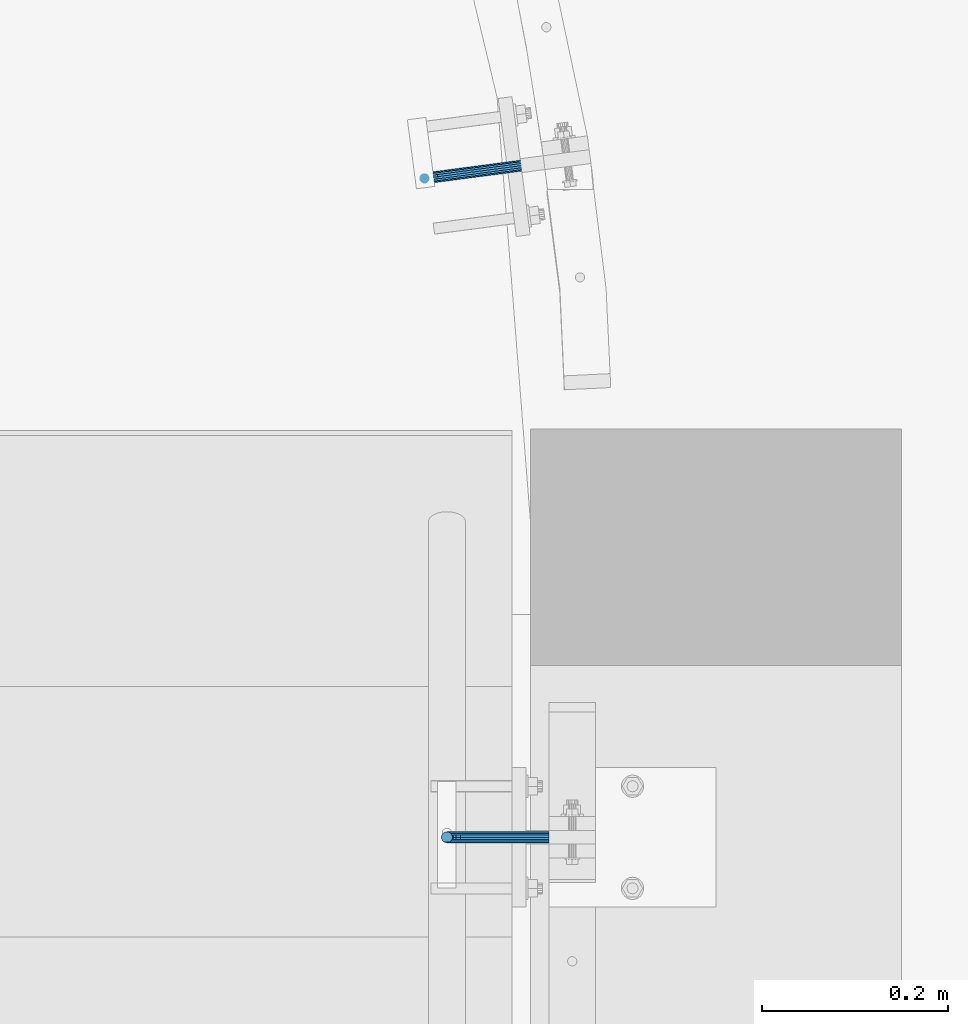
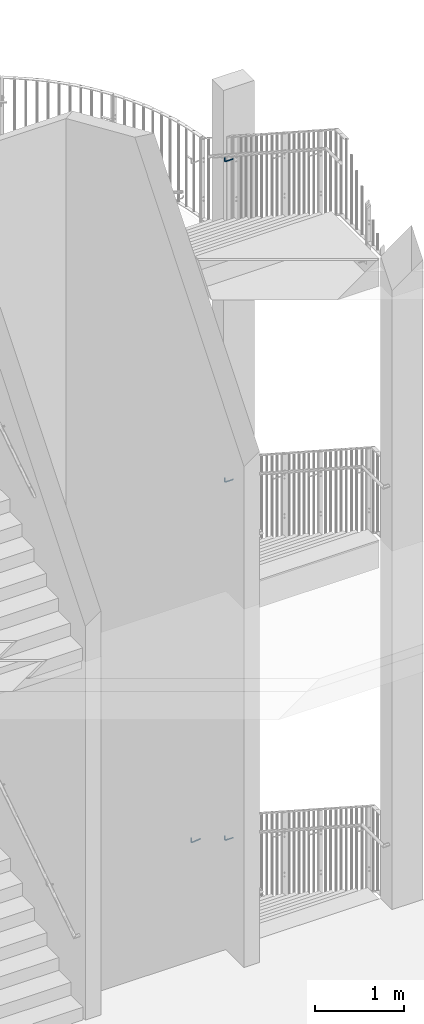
# One storey, part 144 of 296: 4 beams.
"""IFC2X3 building model written with IfcOpenShell, lengths in millimetres."""

from ifc_helpers import new_model, entity, si_unit, converted_unit, origin_with_axes, place, context, project, spatial, faceted_brep, material, element, save


model = new_model("IFC2X3")

# Units and contexts
model_context = context("Model", 3, precision=1e-09, world=origin_with_axes())
ifc_project = project(units=[si_unit("LENGTHUNIT", "METRE", prefix="MILLI"), si_unit("AREAUNIT", "SQUARE_METRE"), si_unit("VOLUMEUNIT", "CUBIC_METRE"), converted_unit("PLANEANGLEUNIT", "DEGREE", entity("IfcPlaneAngleMeasure", 0.01745329), si_unit("PLANEANGLEUNIT", "RADIAN"), dimensions=[0, 0, 0, 0, 0, 0, 0])], contexts=[model_context])

# Site, building, storey
site_placement = place(None, origin_with_axes())
site = spatial("IfcSite", under=ifc_project, at=site_placement, Name="TZD-S?d | Treppenhausgel?nder", CompositionType="ELEMENT")
building_placement = place(site_placement, origin_with_axes())
building = spatial("IfcBuilding", under=site, at=building_placement, Name="Struktur 1", CompositionType="ELEMENT")
storey_placement = place(building_placement, origin_with_axes())
storey = spatial("IfcBuildingStorey", under=building, at=storey_placement, Name="Default Storey", CompositionType="ELEMENT", Elevation=0.0)

# Beams
ifc_material = material(Name="S235JR")
beam_1_placement = place(None, origin_with_axes())
element("IfcBeam", 1, at=beam_1_placement, inside=storey, material=ifc_material, Name="-", ObjectType="-", context=model_context, shape_type="Brep", body=[
    faceted_brep([(5763.10541862, -445.00184, 13035.889059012), (5756.89258138, -445.00184, 13035.889059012), (5757.702899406, -445.543277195, 13035.889059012), (5759.999, -446.0, 13035.889059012), (5762.295100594, -445.543277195, 13035.889059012), (5755.756359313, -444.242640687, 13035.397521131), (5754.455722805, -442.296100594, 13034.137248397), (5754.455722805, -442.296100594, 12990.889059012), (5755.756359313, -444.242640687, 12990.889059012), (5757.702899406, -445.543277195, 12990.889059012), (5759.999, -446.0, 12990.889059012), (5762.295100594, -445.543277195, 12990.889059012), (5764.241640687, -444.242640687, 13035.397521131), (5764.241640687, -444.242640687, 12990.889059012), (5765.542277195, -442.296100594, 13034.137248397), (5765.542277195, -442.296100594, 12990.889059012), (5765.999, -440.0, 13032.650655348), (5765.999, -440.0, 12990.889059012), (5765.542277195, -437.703899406, 13031.164062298), (5765.542277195, -437.703899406, 12990.889059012), (5764.241640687, -435.757359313, 13029.903789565), (5764.241640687, -435.757359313, 12990.889059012), (5762.295100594, -434.456722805, 13029.061702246), (5762.295100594, -434.456722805, 12990.889059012), (5759.999, -434.0, 13028.766000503), (5759.999, -434.0, 12990.889059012), (5757.702899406, -434.456722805, 13029.061702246), (5757.702899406, -434.456722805, 12990.889059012), (5755.756359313, -435.757359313, 13029.903789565), (5755.756359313, -435.757359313, 12990.889059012), (5754.455722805, -437.703899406, 13031.164062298), (5754.455722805, -437.703899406, 12990.889059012), (5753.999, -440.0, 13032.650655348), (5753.999, -440.0, 12990.889059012), (5869.999, -444.242640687, 12966.646418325), (5869.999, -442.296100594, 12965.345781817), (5869.999, -440.0, 12964.889059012), (5869.999, -437.703899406, 12965.345781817), (5869.999, -435.757359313, 12966.646418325), (5869.999, -434.456722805, 12968.592958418), (5869.999, -434.0, 12970.889059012), (5869.999, -434.456722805, 12973.185159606), (5869.999, -435.757359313, 12975.131699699), (5869.999, -437.703899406, 12976.432336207), (5869.999, -440.0, 12976.889059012), (5869.999, -442.296100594, 12976.432336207), (5869.999, -444.242640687, 12975.131699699), (5869.999, -445.543277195, 12973.185159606), (5869.999, -446.0, 12970.889059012), (5869.999, -445.543277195, 12968.592958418), (5756.400089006, -442.296100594, 12981.114070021), (5757.601720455, -444.242640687, 12981.611802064), (5759.400089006, -445.543277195, 12982.356710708), (5761.52140935, -446.0, 12983.235390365), (5763.642729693, -445.543277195, 12984.114070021), (5765.441098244, -444.242640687, 12984.858978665), (5766.642729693, -442.296100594, 12985.356710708), (5767.064686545, -440.0, 12985.531490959), (5766.642729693, -437.703899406, 12985.356710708), (5765.441098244, -435.757359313, 12984.858978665), (5763.642729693, -434.456722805, 12984.114070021), (5761.52140935, -434.0, 12983.235390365), (5759.400089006, -434.456722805, 12982.356710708), (5757.601720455, -435.757359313, 12981.611802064), (5756.400089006, -437.703899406, 12981.114070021), (5755.978132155, -440.0, 12980.939289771), (5761.937175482, -442.296100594, 12972.827234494), (5762.856864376, -444.242640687, 12973.746923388), (5764.233276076, -445.543277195, 12975.123335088), (5765.856864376, -446.0, 12976.746923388), (5767.480452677, -445.543277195, 12978.370511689), (5768.856864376, -444.242640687, 12979.746923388), (5769.776553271, -442.296100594, 12980.666612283), (5770.099505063, -440.0, 12980.989564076), (5769.776553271, -437.703899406, 12980.666612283), (5768.856864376, -435.757359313, 12979.746923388), (5767.480452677, -434.456722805, 12978.370511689), (5765.856864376, -434.0, 12976.746923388), (5764.233276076, -434.456722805, 12975.123335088), (5762.856864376, -435.757359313, 12973.746923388), (5761.937175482, -437.703899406, 12972.827234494), (5761.614223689, -440.0, 12972.504282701), (5770.224011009, -442.296100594, 12967.290148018), (5770.721743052, -444.242640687, 12968.491779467), (5771.466651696, -445.543277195, 12970.290148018), (5772.345331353, -446.0, 12972.411468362), (5773.224011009, -445.543277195, 12974.532788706), (5773.968919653, -444.242640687, 12976.331157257), (5774.466651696, -442.296100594, 12977.532788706), (5774.641431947, -440.0, 12977.954745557), (5774.466651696, -437.703899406, 12977.532788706), (5773.968919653, -435.757359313, 12976.331157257), (5773.224011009, -434.456722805, 12974.532788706), (5772.345331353, -434.0, 12972.411468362), (5771.466651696, -434.456722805, 12970.290148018), (5770.721743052, -435.757359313, 12968.491779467), (5770.224011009, -437.703899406, 12967.290148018), (5770.049230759, -440.0, 12966.868191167), (5779.999, -442.296100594, 12965.345781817), (5779.999, -444.242640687, 12966.646418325), (5779.999, -445.543277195, 12968.592958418), (5779.999, -446.0, 12970.889059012), (5779.999, -445.543277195, 12973.185159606), (5779.999, -444.242640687, 12975.131699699), (5779.999, -442.296100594, 12976.432336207), (5779.999, -440.0, 12976.889059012), (5779.999, -437.703899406, 12976.432336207), (5779.999, -435.757359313, 12975.131699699), (5779.999, -434.456722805, 12973.185159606), (5779.999, -434.0, 12970.889059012), (5779.999, -434.456722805, 12968.592958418), (5779.999, -435.757359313, 12966.646418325), (5779.999, -437.703899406, 12965.345781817), (5779.999, -440.0, 12964.889059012)], [[[0, 1, 2, 3, 4]], [[5, 6, 7, 8]], [[1, 5, 8, 9, 2]], [[3, 2, 9, 10]], [[4, 3, 10, 11]], [[12, 0, 4, 11, 13]], [[14, 12, 13, 15]], [[16, 14, 15, 17]], [[18, 16, 17, 19]], [[20, 18, 19, 21]], [[22, 20, 21, 23]], [[24, 22, 23, 25]], [[26, 24, 25, 27]], [[28, 26, 27, 29]], [[30, 28, 29, 31]], [[32, 30, 31, 33]], [[6, 32, 33, 7]], [[14, 16, 18, 20, 22, 24, 26, 28, 30, 32, 6, 5, 1, 0, 12]], [[34, 35, 36, 37, 38, 39, 40, 41, 42, 43, 44, 45, 46, 47, 48, 49]], [[8, 7, 50, 51]], [[9, 8, 51, 52]], [[10, 9, 52, 53]], [[11, 10, 53, 54]], [[13, 11, 54, 55]], [[15, 13, 55, 56]], [[17, 15, 56, 57]], [[19, 17, 57, 58]], [[21, 19, 58, 59]], [[23, 21, 59, 60]], [[25, 23, 60, 61]], [[27, 25, 61, 62]], [[29, 27, 62, 63]], [[31, 29, 63, 64]], [[33, 31, 64, 65]], [[7, 33, 65, 50]], [[51, 50, 66, 67]], [[52, 51, 67, 68]], [[53, 52, 68, 69]], [[54, 53, 69, 70]], [[55, 54, 70, 71]], [[56, 55, 71, 72]], [[57, 56, 72, 73]], [[58, 57, 73, 74]], [[59, 58, 74, 75]], [[60, 59, 75, 76]], [[61, 60, 76, 77]], [[62, 61, 77, 78]], [[63, 62, 78, 79]], [[64, 63, 79, 80]], [[65, 64, 80, 81]], [[50, 65, 81, 66]], [[67, 66, 82, 83]], [[68, 67, 83, 84]], [[69, 68, 84, 85]], [[70, 69, 85, 86]], [[71, 70, 86, 87]], [[72, 71, 87, 88]], [[73, 72, 88, 89]], [[74, 73, 89, 90]], [[75, 74, 90, 91]], [[76, 75, 91, 92]], [[77, 76, 92, 93]], [[78, 77, 93, 94]], [[79, 78, 94, 95]], [[80, 79, 95, 96]], [[81, 80, 96, 97]], [[66, 81, 97, 82]], [[83, 82, 98, 99]], [[84, 83, 99, 100]], [[85, 84, 100, 101]], [[86, 85, 101, 102]], [[87, 86, 102, 103]], [[88, 87, 103, 104]], [[89, 88, 104, 105]], [[90, 89, 105, 106]], [[91, 90, 106, 107]], [[92, 91, 107, 108]], [[93, 92, 108, 109]], [[94, 93, 109, 110]], [[95, 94, 110, 111]], [[96, 95, 111, 112]], [[97, 96, 112, 113]], [[82, 97, 113, 98]], [[99, 98, 35, 34]], [[100, 99, 34, 49]], [[101, 100, 49, 48]], [[102, 101, 48, 47]], [[103, 102, 47, 46]], [[104, 103, 46, 45]], [[105, 104, 45, 44]], [[106, 105, 44, 43]], [[107, 106, 43, 42]], [[108, 107, 42, 41]], [[109, 108, 41, 40]], [[110, 109, 40, 39]], [[111, 110, 39, 38]], [[112, 111, 38, 37]], [[113, 112, 37, 36]], [[98, 113, 36, 35]]]),
])
beam_2_placement = place(None, origin_with_axes())
element("IfcBeam", 2, at=beam_2_placement, inside=storey, material=ifc_material, Name="-", ObjectType="-", context=model_context, shape_type="Brep", body=[
    faceted_brep([(5763.105419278, -445.00183956, 8657.521152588), (5756.892580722, -445.00183956, 8657.521152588), (5757.702899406, -445.543277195, 8657.521152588), (5759.999, -446.0, 8657.521152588), (5762.295100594, -445.543277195, 8657.521152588), (5755.756359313, -444.242640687, 8657.029448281), (5754.455722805, -442.296100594, 8655.76874811), (5754.455722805, -442.296100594, 8612.521152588), (5755.756359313, -444.242640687, 8612.521152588), (5757.702899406, -445.543277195, 8612.521152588), (5759.999, -446.0, 8612.521152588), (5762.295100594, -445.543277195, 8612.521152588), (5764.241640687, -444.242640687, 8657.029448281), (5764.241640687, -444.242640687, 8612.521152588), (5765.542277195, -442.296100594, 8655.76874811), (5765.542277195, -442.296100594, 8612.521152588), (5765.999, -440.0, 8654.281650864), (5765.999, -440.0, 8612.521152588), (5765.542277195, -437.703899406, 8652.794553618), (5765.542277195, -437.703899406, 8612.521152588), (5764.241640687, -435.757359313, 8651.533853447), (5764.241640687, -435.757359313, 8612.521152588), (5762.295100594, -434.456722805, 8650.691480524), (5762.295100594, -434.456722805, 8612.521152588), (5759.999, -434.0, 8650.39567849), (5759.999, -434.0, 8612.521152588), (5757.702899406, -434.456722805, 8650.691480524), (5757.702899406, -434.456722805, 8612.521152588), (5755.756359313, -435.757359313, 8651.533853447), (5755.756359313, -435.757359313, 8612.521152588), (5754.455722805, -437.703899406, 8652.794553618), (5754.455722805, -437.703899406, 8612.521152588), (5753.999, -440.0, 8654.281650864), (5753.999, -440.0, 8612.521152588), (5869.999, -444.242640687, 8588.278511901), (5869.999, -442.296100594, 8586.977875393), (5869.999, -440.0, 8586.521152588), (5869.999, -437.703899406, 8586.977875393), (5869.999, -435.757359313, 8588.278511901), (5869.999, -434.456722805, 8590.225051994), (5869.999, -434.0, 8592.521152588), (5869.999, -434.456722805, 8594.817253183), (5869.999, -435.757359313, 8596.763793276), (5869.999, -437.703899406, 8598.064429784), (5869.999, -440.0, 8598.521152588), (5869.999, -442.296100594, 8598.064429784), (5869.999, -444.242640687, 8596.763793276), (5869.999, -445.543277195, 8594.817253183), (5869.999, -446.0, 8592.521152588), (5869.999, -445.543277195, 8590.225051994), (5756.400089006, -442.296100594, 8602.746163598), (5757.601720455, -444.242640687, 8603.243895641), (5759.400089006, -445.543277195, 8603.988804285), (5761.52140935, -446.0, 8604.867483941), (5763.642729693, -445.543277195, 8605.746163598), (5765.441098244, -444.242640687, 8606.491072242), (5766.642729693, -442.296100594, 8606.988804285), (5767.064686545, -440.0, 8607.163584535), (5766.642729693, -437.703899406, 8606.988804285), (5765.441098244, -435.757359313, 8606.491072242), (5763.642729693, -434.456722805, 8605.746163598), (5761.52140935, -434.0, 8604.867483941), (5759.400089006, -434.456722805, 8603.988804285), (5757.601720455, -435.757359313, 8603.243895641), (5756.400089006, -437.703899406, 8602.746163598), (5755.978132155, -440.0, 8602.571383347), (5761.937175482, -442.296100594, 8594.45932807), (5762.856864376, -444.242640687, 8595.379016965), (5764.233276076, -445.543277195, 8596.755428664), (5765.856864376, -446.0, 8598.379016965), (5767.480452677, -445.543277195, 8600.002605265), (5768.856864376, -444.242640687, 8601.379016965), (5769.776553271, -442.296100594, 8602.298705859), (5770.099505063, -440.0, 8602.621657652), (5769.776553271, -437.703899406, 8602.298705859), (5768.856864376, -435.757359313, 8601.379016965), (5767.480452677, -434.456722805, 8600.002605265), (5765.856864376, -434.0, 8598.379016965), (5764.233276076, -434.456722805, 8596.755428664), (5762.856864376, -435.757359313, 8595.379016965), (5761.937175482, -437.703899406, 8594.45932807), (5761.614223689, -440.0, 8594.136376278), (5770.224011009, -442.296100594, 8588.922241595), (5770.721743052, -444.242640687, 8590.123873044), (5771.466651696, -445.543277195, 8591.922241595), (5772.345331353, -446.0, 8594.043561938), (5773.224011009, -445.543277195, 8596.164882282), (5773.968919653, -444.242640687, 8597.963250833), (5774.466651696, -442.296100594, 8599.164882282), (5774.641431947, -440.0, 8599.586839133), (5774.466651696, -437.703899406, 8599.164882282), (5773.968919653, -435.757359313, 8597.963250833), (5773.224011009, -434.456722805, 8596.164882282), (5772.345331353, -434.0, 8594.043561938), (5771.466651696, -434.456722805, 8591.922241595), (5770.721743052, -435.757359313, 8590.123873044), (5770.224011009, -437.703899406, 8588.922241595), (5770.049230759, -440.0, 8588.500284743), (5779.999, -442.296100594, 8586.977875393), (5779.999, -444.242640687, 8588.278511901), (5779.999, -445.543277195, 8590.225051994), (5779.999, -446.0, 8592.521152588), (5779.999, -445.543277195, 8594.817253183), (5779.999, -444.242640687, 8596.763793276), (5779.999, -442.296100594, 8598.064429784), (5779.999, -440.0, 8598.521152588), (5779.999, -437.703899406, 8598.064429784), (5779.999, -435.757359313, 8596.763793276), (5779.999, -434.456722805, 8594.817253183), (5779.999, -434.0, 8592.521152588), (5779.999, -434.456722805, 8590.225051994), (5779.999, -435.757359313, 8588.278511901), (5779.999, -437.703899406, 8586.977875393), (5779.999, -440.0, 8586.521152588)], [[[0, 1, 2, 3, 4]], [[5, 6, 7, 8]], [[1, 5, 8, 9, 2]], [[3, 2, 9, 10]], [[4, 3, 10, 11]], [[12, 0, 4, 11, 13]], [[14, 12, 13, 15]], [[16, 14, 15, 17]], [[18, 16, 17, 19]], [[20, 18, 19, 21]], [[22, 20, 21, 23]], [[24, 22, 23, 25]], [[26, 24, 25, 27]], [[28, 26, 27, 29]], [[30, 28, 29, 31]], [[32, 30, 31, 33]], [[6, 32, 33, 7]], [[14, 16, 18, 20, 22, 24, 26, 28, 30, 32, 6, 5, 1, 0, 12]], [[34, 35, 36, 37, 38, 39, 40, 41, 42, 43, 44, 45, 46, 47, 48, 49]], [[8, 7, 50, 51]], [[9, 8, 51, 52]], [[10, 9, 52, 53]], [[11, 10, 53, 54]], [[13, 11, 54, 55]], [[15, 13, 55, 56]], [[17, 15, 56, 57]], [[19, 17, 57, 58]], [[21, 19, 58, 59]], [[23, 21, 59, 60]], [[25, 23, 60, 61]], [[27, 25, 61, 62]], [[29, 27, 62, 63]], [[31, 29, 63, 64]], [[33, 31, 64, 65]], [[7, 33, 65, 50]], [[51, 50, 66, 67]], [[52, 51, 67, 68]], [[53, 52, 68, 69]], [[54, 53, 69, 70]], [[55, 54, 70, 71]], [[56, 55, 71, 72]], [[57, 56, 72, 73]], [[58, 57, 73, 74]], [[59, 58, 74, 75]], [[60, 59, 75, 76]], [[61, 60, 76, 77]], [[62, 61, 77, 78]], [[63, 62, 78, 79]], [[64, 63, 79, 80]], [[65, 64, 80, 81]], [[50, 65, 81, 66]], [[67, 66, 82, 83]], [[68, 67, 83, 84]], [[69, 68, 84, 85]], [[70, 69, 85, 86]], [[71, 70, 86, 87]], [[72, 71, 87, 88]], [[73, 72, 88, 89]], [[74, 73, 89, 90]], [[75, 74, 90, 91]], [[76, 75, 91, 92]], [[77, 76, 92, 93]], [[78, 77, 93, 94]], [[79, 78, 94, 95]], [[80, 79, 95, 96]], [[81, 80, 96, 97]], [[66, 81, 97, 82]], [[83, 82, 98, 99]], [[84, 83, 99, 100]], [[85, 84, 100, 101]], [[86, 85, 101, 102]], [[87, 86, 102, 103]], [[88, 87, 103, 104]], [[89, 88, 104, 105]], [[90, 89, 105, 106]], [[91, 90, 106, 107]], [[92, 91, 107, 108]], [[93, 92, 108, 109]], [[94, 93, 109, 110]], [[95, 94, 110, 111]], [[96, 95, 111, 112]], [[97, 96, 112, 113]], [[82, 97, 113, 98]], [[99, 98, 35, 34]], [[100, 99, 34, 49]], [[101, 100, 49, 48]], [[102, 101, 48, 47]], [[103, 102, 47, 46]], [[104, 103, 46, 45]], [[105, 104, 45, 44]], [[106, 105, 44, 43]], [[107, 106, 43, 42]], [[108, 107, 42, 41]], [[109, 108, 41, 40]], [[110, 109, 40, 39]], [[111, 110, 39, 38]], [[112, 111, 38, 37]], [[113, 112, 37, 36]], [[98, 113, 36, 35]]]),
])
beam_3_placement = place(None, origin_with_axes())
element("IfcBeam", 3, at=beam_3_placement, inside=storey, material=ifc_material, Name="-", ObjectType="-", context=model_context, shape_type="Brep", body=[
    faceted_brep([(5763.105415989, -445.001841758, 3764.175393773), (5756.892584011, -445.001841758, 3764.175393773), (5757.702899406, -445.543277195, 3764.175393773), (5759.999, -446.0, 3764.175393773), (5762.295100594, -445.543277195, 3764.175393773), (5755.756359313, -444.242640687, 3763.684520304), (5754.455722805, -442.296100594, 3762.425953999), (5754.455722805, -442.296100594, 3719.175393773), (5755.756359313, -444.242640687, 3719.175393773), (5757.702899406, -445.543277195, 3719.175393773), (5759.999, -446.0, 3719.175393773), (5762.295100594, -445.543277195, 3719.175393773), (5764.241640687, -444.242640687, 3763.684520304), (5764.241640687, -444.242640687, 3719.175393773), (5765.542277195, -442.296100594, 3762.425953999), (5765.542277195, -442.296100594, 3719.175393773), (5765.999, -440.0, 3760.941373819), (5765.999, -440.0, 3719.175393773), (5765.542277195, -437.703899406, 3759.456793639), (5765.542277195, -437.703899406, 3719.175393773), (5764.241640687, -435.757359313, 3758.198227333), (5764.241640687, -435.757359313, 3719.175393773), (5762.295100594, -434.456722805, 3757.357280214), (5762.295100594, -434.456722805, 3719.175393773), (5759.999, -434.0, 3757.061978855), (5759.999, -434.0, 3719.175393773), (5757.702899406, -434.456722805, 3757.357280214), (5757.702899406, -434.456722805, 3719.175393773), (5755.756359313, -435.757359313, 3758.198227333), (5755.756359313, -435.757359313, 3719.175393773), (5754.455722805, -437.703899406, 3759.456793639), (5754.455722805, -437.703899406, 3719.175393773), (5753.999, -440.0, 3760.941373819), (5753.999, -440.0, 3719.175393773), (5869.999, -444.242640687, 3694.932753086), (5869.999, -442.296100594, 3693.632116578), (5869.999, -440.0, 3693.175393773), (5869.999, -437.703899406, 3693.632116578), (5869.999, -435.757359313, 3694.932753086), (5869.999, -434.456722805, 3696.879293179), (5869.999, -434.0, 3699.175393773), (5869.999, -434.456722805, 3701.471494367), (5869.999, -435.757359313, 3703.41803446), (5869.999, -437.703899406, 3704.718670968), (5869.999, -440.0, 3705.175393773), (5869.999, -442.296100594, 3704.718670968), (5869.999, -444.242640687, 3703.41803446), (5869.999, -445.543277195, 3701.471494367), (5869.999, -446.0, 3699.175393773), (5869.999, -445.543277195, 3696.879293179), (5756.400089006, -442.296100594, 3709.400404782), (5757.601720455, -444.242640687, 3709.898136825), (5759.400089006, -445.543277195, 3710.643045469), (5761.52140935, -446.0, 3711.521725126), (5763.642729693, -445.543277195, 3712.400404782), (5765.441098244, -444.242640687, 3713.145313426), (5766.642729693, -442.296100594, 3713.643045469), (5767.064686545, -440.0, 3713.81782572), (5766.642729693, -437.703899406, 3713.643045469), (5765.441098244, -435.757359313, 3713.145313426), (5763.642729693, -434.456722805, 3712.400404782), (5761.52140935, -434.0, 3711.521725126), (5759.400089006, -434.456722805, 3710.643045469), (5757.601720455, -435.757359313, 3709.898136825), (5756.400089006, -437.703899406, 3709.400404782), (5755.978132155, -440.0, 3709.225624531), (5761.937175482, -442.296100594, 3701.113569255), (5762.856864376, -444.242640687, 3702.033258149), (5764.233276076, -445.543277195, 3703.409669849), (5765.856864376, -446.0, 3705.033258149), (5767.480452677, -445.543277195, 3706.65684645), (5768.856864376, -444.242640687, 3708.033258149), (5769.776553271, -442.296100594, 3708.952947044), (5770.099505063, -440.0, 3709.275898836), (5769.776553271, -437.703899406, 3708.952947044), (5768.856864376, -435.757359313, 3708.033258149), (5767.480452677, -434.456722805, 3706.65684645), (5765.856864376, -434.0, 3705.033258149), (5764.233276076, -434.456722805, 3703.409669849), (5762.856864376, -435.757359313, 3702.033258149), (5761.937175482, -437.703899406, 3701.113569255), (5761.614223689, -440.0, 3700.790617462), (5770.224011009, -442.296100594, 3695.576482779), (5770.721743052, -444.242640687, 3696.778114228), (5771.466651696, -445.543277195, 3698.576482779), (5772.345331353, -446.0, 3700.697803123), (5773.224011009, -445.543277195, 3702.819123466), (5773.968919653, -444.242640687, 3704.617492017), (5774.466651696, -442.296100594, 3705.819123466), (5774.641431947, -440.0, 3706.241080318), (5774.466651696, -437.703899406, 3705.819123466), (5773.968919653, -435.757359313, 3704.617492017), (5773.224011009, -434.456722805, 3702.819123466), (5772.345331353, -434.0, 3700.697803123), (5771.466651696, -434.456722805, 3698.576482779), (5770.721743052, -435.757359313, 3696.778114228), (5770.224011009, -437.703899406, 3695.576482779), (5770.049230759, -440.0, 3695.154525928), (5779.999, -442.296100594, 3693.632116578), (5779.999, -444.242640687, 3694.932753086), (5779.999, -445.543277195, 3696.879293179), (5779.999, -446.0, 3699.175393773), (5779.999, -445.543277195, 3701.471494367), (5779.999, -444.242640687, 3703.41803446), (5779.999, -442.296100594, 3704.718670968), (5779.999, -440.0, 3705.175393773), (5779.999, -437.703899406, 3704.718670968), (5779.999, -435.757359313, 3703.41803446), (5779.999, -434.456722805, 3701.471494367), (5779.999, -434.0, 3699.175393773), (5779.999, -434.456722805, 3696.879293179), (5779.999, -435.757359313, 3694.932753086), (5779.999, -437.703899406, 3693.632116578), (5779.999, -440.0, 3693.175393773)], [[[0, 1, 2, 3, 4]], [[5, 6, 7, 8]], [[1, 5, 8, 9, 2]], [[3, 2, 9, 10]], [[4, 3, 10, 11]], [[12, 0, 4, 11, 13]], [[14, 12, 13, 15]], [[16, 14, 15, 17]], [[18, 16, 17, 19]], [[20, 18, 19, 21]], [[22, 20, 21, 23]], [[24, 22, 23, 25]], [[26, 24, 25, 27]], [[28, 26, 27, 29]], [[30, 28, 29, 31]], [[32, 30, 31, 33]], [[6, 32, 33, 7]], [[14, 16, 18, 20, 22, 24, 26, 28, 30, 32, 6, 5, 1, 0, 12]], [[34, 35, 36, 37, 38, 39, 40, 41, 42, 43, 44, 45, 46, 47, 48, 49]], [[8, 7, 50, 51]], [[9, 8, 51, 52]], [[10, 9, 52, 53]], [[11, 10, 53, 54]], [[13, 11, 54, 55]], [[15, 13, 55, 56]], [[17, 15, 56, 57]], [[19, 17, 57, 58]], [[21, 19, 58, 59]], [[23, 21, 59, 60]], [[25, 23, 60, 61]], [[27, 25, 61, 62]], [[29, 27, 62, 63]], [[31, 29, 63, 64]], [[33, 31, 64, 65]], [[7, 33, 65, 50]], [[51, 50, 66, 67]], [[52, 51, 67, 68]], [[53, 52, 68, 69]], [[54, 53, 69, 70]], [[55, 54, 70, 71]], [[56, 55, 71, 72]], [[57, 56, 72, 73]], [[58, 57, 73, 74]], [[59, 58, 74, 75]], [[60, 59, 75, 76]], [[61, 60, 76, 77]], [[62, 61, 77, 78]], [[63, 62, 78, 79]], [[64, 63, 79, 80]], [[65, 64, 80, 81]], [[50, 65, 81, 66]], [[67, 66, 82, 83]], [[68, 67, 83, 84]], [[69, 68, 84, 85]], [[70, 69, 85, 86]], [[71, 70, 86, 87]], [[72, 71, 87, 88]], [[73, 72, 88, 89]], [[74, 73, 89, 90]], [[75, 74, 90, 91]], [[76, 75, 91, 92]], [[77, 76, 92, 93]], [[78, 77, 93, 94]], [[79, 78, 94, 95]], [[80, 79, 95, 96]], [[81, 80, 96, 97]], [[66, 81, 97, 82]], [[83, 82, 98, 99]], [[84, 83, 99, 100]], [[85, 84, 100, 101]], [[86, 85, 101, 102]], [[87, 86, 102, 103]], [[88, 87, 103, 104]], [[89, 88, 104, 105]], [[90, 89, 105, 106]], [[91, 90, 106, 107]], [[92, 91, 107, 108]], [[93, 92, 108, 109]], [[94, 93, 109, 110]], [[95, 94, 110, 111]], [[96, 95, 111, 112]], [[97, 96, 112, 113]], [[82, 97, 113, 98]], [[99, 98, 35, 34]], [[100, 99, 34, 49]], [[101, 100, 49, 48]], [[102, 101, 48, 47]], [[103, 102, 47, 46]], [[104, 103, 46, 45]], [[105, 104, 45, 44]], [[106, 105, 44, 43]], [[107, 106, 43, 42]], [[108, 107, 42, 41]], [[109, 108, 41, 40]], [[110, 109, 40, 39]], [[111, 110, 39, 38]], [[112, 111, 38, 37]], [[113, 112, 37, 36]], [[98, 113, 36, 35]]]),
])
beam_4_placement = place(None, origin_with_axes())
element("IfcBeam", 4, at=beam_4_placement, inside=storey, material=ifc_material, Name="-", ObjectType="-", context=model_context, shape_type="Brep", body=[
    faceted_brep([(5730.550029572, 267.041754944, 3310.0), (5732.093613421, 265.281634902, 3310.0), (5734.193267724, 264.246199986, 3310.0), (5736.529339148, 264.093085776, 3310.0), (5738.746181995, 264.845602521, 3310.0), (5740.506302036, 266.38918637, 3310.0), (5741.541736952, 268.488840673, 3310.0), (5741.694851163, 270.824912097, 3310.0), (5740.942334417, 273.041754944, 3310.0), (5739.398750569, 274.801874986, 3310.0), (5737.299096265, 275.837309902, 3310.0), (5734.963024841, 275.990424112, 3310.0), (5732.746181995, 275.237907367, 3310.0), (5730.986061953, 273.694323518, 3310.0), (5729.950627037, 271.594669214, 3310.0), (5729.797512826, 269.258597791, 3310.0), (5865.187789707, 282.803815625, 3240.757359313), (5864.933715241, 284.733702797, 3239.456722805), (5864.634013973, 287.010159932, 3239.0), (5864.334312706, 289.286617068, 3239.456722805), (5864.080238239, 291.21650424, 3240.757359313), (5863.910471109, 292.506013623, 3242.703899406), (5863.85085682, 292.958829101, 3245.0), (5863.910471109, 292.506013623, 3247.296100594), (5864.080238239, 291.21650424, 3249.242640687), (5864.334312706, 289.286617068, 3250.543277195), (5864.634013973, 287.010159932, 3251.0), (5864.933715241, 284.733702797, 3250.543277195), (5865.187789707, 282.803815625, 3249.242640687), (5865.357556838, 281.514306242, 3247.296100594), (5865.417171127, 281.061490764, 3245.0), (5865.357556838, 281.514306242, 3242.703899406), (5730.550029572, 267.041754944, 3265.0), (5732.093613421, 265.281634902, 3265.0), (5734.193267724, 264.246199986, 3265.0), (5736.529339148, 264.093085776, 3265.0), (5738.746181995, 264.845602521, 3265.0), (5740.506302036, 266.38918637, 3265.0), (5741.541736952, 268.488840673, 3265.0), (5741.694851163, 270.824912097, 3265.0), (5740.942334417, 273.041754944, 3265.0), (5739.398750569, 274.801874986, 3265.0), (5737.299096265, 275.837309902, 3265.0), (5734.963024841, 275.990424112, 3265.0), (5732.746181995, 275.237907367, 3265.0), (5730.986061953, 273.694323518, 3265.0), (5729.950627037, 271.594669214, 3265.0), (5729.797512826, 269.258597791, 3265.0), (5732.477761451, 267.29554566, 3255.225011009), (5733.923187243, 265.522502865, 3255.722743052), (5735.875937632, 264.467727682, 3256.467651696), (5738.038724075, 264.291800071, 3257.346331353), (5740.08228194, 265.021503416, 3258.225011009), (5741.695498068, 266.545746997, 3258.969919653), (5742.632774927, 268.632478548, 3259.467651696), (5742.751420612, 270.964012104, 3259.642431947), (5742.033372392, 273.185392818, 3259.467651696), (5740.5879466, 274.958435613, 3258.969919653), (5738.635196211, 276.013210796, 3258.225011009), (5736.472409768, 276.189138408, 3257.346331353), (5734.428851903, 275.459435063, 3256.467651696), (5732.815635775, 273.935191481, 3255.722743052), (5731.878358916, 271.848459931, 3255.225011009), (5731.759713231, 269.516926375, 3255.050230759), (5737.967477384, 268.018280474, 3246.938175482), (5739.133372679, 266.208436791, 3247.857864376), (5740.667776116, 265.098585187, 3249.234276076), (5742.337088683, 264.857690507, 3250.857864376), (5743.887172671, 265.522426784, 3252.481452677), (5745.082041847, 266.991593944, 3253.857864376), (5745.739788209, 269.041524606, 3254.777553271), (5745.760275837, 271.360135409, 3255.100505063), (5745.140385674, 273.594438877, 3254.777553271), (5743.974490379, 275.40428256, 3253.857864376), (5742.440086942, 276.514134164, 3252.481452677), (5740.770774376, 276.755028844, 3250.857864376), (5739.220690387, 276.090292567, 3249.234276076), (5738.025821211, 274.621125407, 3247.857864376), (5737.368074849, 272.571194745, 3246.938175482), (5737.347587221, 270.252583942, 3246.615223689), (5746.183417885, 269.099929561, 3241.401089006), (5746.930966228, 267.235009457, 3242.602720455), (5747.839269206, 266.042730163, 3244.401089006), (5748.770045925, 265.704605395, 3246.52240935), (5749.581594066, 266.272111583, 3248.643729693), (5750.150362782, 267.658851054, 3250.442098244), (5750.389762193, 269.653705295, 3251.643729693), (5750.263345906, 271.952975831, 3252.065686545), (5749.790359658, 274.206619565, 3251.643729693), (5749.042811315, 276.07153967, 3250.442098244), (5748.134508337, 277.263818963, 3248.643729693), (5747.203731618, 277.601943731, 3246.52240935), (5746.392183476, 277.034437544, 3244.401089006), (5745.82341476, 275.647698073, 3242.602720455), (5745.58401535, 273.652843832, 3241.401089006), (5745.710431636, 271.353573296, 3240.979132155), (5755.87478049, 270.375821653, 3239.456722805), (5756.128854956, 268.44593448, 3240.757359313), (5756.298622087, 267.156425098, 3242.703899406), (5756.358236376, 266.70360962, 3245.0), (5756.298622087, 267.156425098, 3247.296100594), (5756.128854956, 268.44593448, 3249.242640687), (5755.87478049, 270.375821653, 3250.543277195), (5755.575079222, 272.652278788, 3251.0), (5755.275377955, 274.928735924, 3250.543277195), (5755.021303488, 276.858623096, 3249.242640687), (5754.851536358, 278.148132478, 3247.296100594), (5754.791922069, 278.600947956, 3245.0), (5754.851536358, 278.148132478, 3242.703899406), (5755.021303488, 276.858623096, 3240.757359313), (5755.275377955, 274.928735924, 3239.456722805), (5755.575079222, 272.652278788, 3239.0)], [[[0, 1, 2, 3, 4, 5, 6, 7, 8, 9, 10, 11, 12, 13, 14, 15]], [[16, 17, 18, 19, 20, 21, 22, 23, 24, 25, 26, 27, 28, 29, 30, 31]], [[1, 0, 32, 33]], [[2, 1, 33, 34]], [[3, 2, 34, 35]], [[4, 3, 35, 36]], [[5, 4, 36, 37]], [[6, 5, 37, 38]], [[7, 6, 38, 39]], [[8, 7, 39, 40]], [[9, 8, 40, 41]], [[10, 9, 41, 42]], [[11, 10, 42, 43]], [[12, 11, 43, 44]], [[13, 12, 44, 45]], [[14, 13, 45, 46]], [[15, 14, 46, 47]], [[0, 15, 47, 32]], [[33, 32, 48, 49]], [[34, 33, 49, 50]], [[35, 34, 50, 51]], [[36, 35, 51, 52]], [[37, 36, 52, 53]], [[38, 37, 53, 54]], [[39, 38, 54, 55]], [[40, 39, 55, 56]], [[41, 40, 56, 57]], [[42, 41, 57, 58]], [[43, 42, 58, 59]], [[44, 43, 59, 60]], [[45, 44, 60, 61]], [[46, 45, 61, 62]], [[47, 46, 62, 63]], [[32, 47, 63, 48]], [[49, 48, 64, 65]], [[50, 49, 65, 66]], [[51, 50, 66, 67]], [[52, 51, 67, 68]], [[53, 52, 68, 69]], [[54, 53, 69, 70]], [[55, 54, 70, 71]], [[56, 55, 71, 72]], [[57, 56, 72, 73]], [[58, 57, 73, 74]], [[59, 58, 74, 75]], [[60, 59, 75, 76]], [[61, 60, 76, 77]], [[62, 61, 77, 78]], [[63, 62, 78, 79]], [[48, 63, 79, 64]], [[65, 64, 80, 81]], [[66, 65, 81, 82]], [[67, 66, 82, 83]], [[68, 67, 83, 84]], [[69, 68, 84, 85]], [[70, 69, 85, 86]], [[71, 70, 86, 87]], [[72, 71, 87, 88]], [[73, 72, 88, 89]], [[74, 73, 89, 90]], [[75, 74, 90, 91]], [[76, 75, 91, 92]], [[77, 76, 92, 93]], [[78, 77, 93, 94]], [[79, 78, 94, 95]], [[64, 79, 95, 80]], [[81, 80, 96, 97]], [[82, 81, 97, 98]], [[83, 82, 98, 99]], [[84, 83, 99, 100]], [[85, 84, 100, 101]], [[86, 85, 101, 102]], [[87, 86, 102, 103]], [[88, 87, 103, 104]], [[89, 88, 104, 105]], [[90, 89, 105, 106]], [[91, 90, 106, 107]], [[92, 91, 107, 108]], [[93, 92, 108, 109]], [[94, 93, 109, 110]], [[95, 94, 110, 111]], [[80, 95, 111, 96]], [[97, 96, 17, 16]], [[98, 97, 16, 31]], [[99, 98, 31, 30]], [[100, 99, 30, 29]], [[101, 100, 29, 28]], [[102, 101, 28, 27]], [[103, 102, 27, 26]], [[104, 103, 26, 25]], [[105, 104, 25, 24]], [[106, 105, 24, 23]], [[107, 106, 23, 22]], [[108, 107, 22, 21]], [[109, 108, 21, 20]], [[110, 109, 20, 19]], [[111, 110, 19, 18]], [[96, 111, 18, 17]]]),
])

save(model, "model.ifc")
